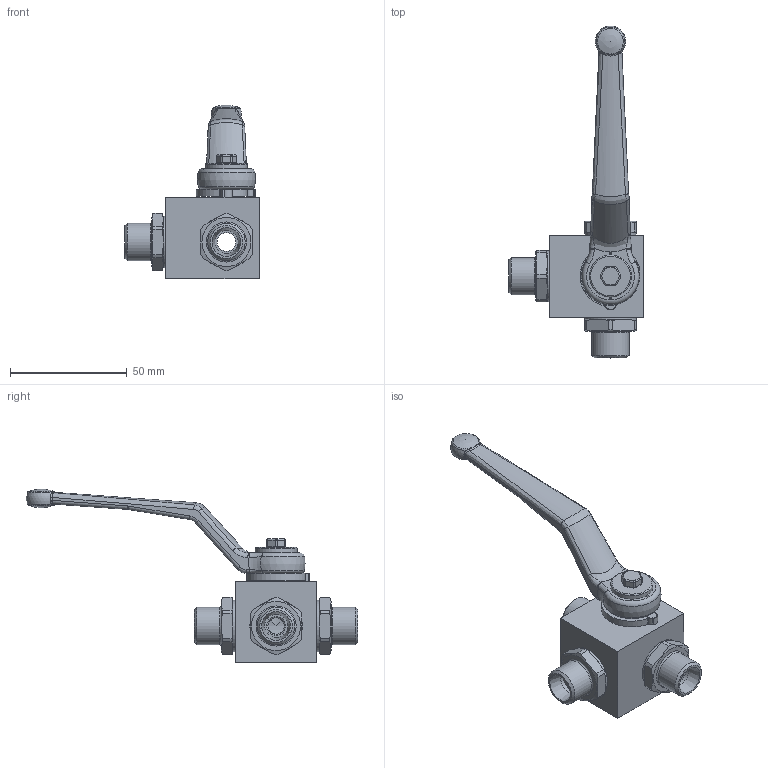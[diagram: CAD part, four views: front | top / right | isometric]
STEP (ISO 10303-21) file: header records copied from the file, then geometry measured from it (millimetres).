
FILE_DESCRIPTION( ( 'Unknown' ), '1' );
FILE_NAME( 'H:/PISTER/3D-MODELLE/BK3-Edelstahl stp/BK3-Edelst DN8 10L.stp', 'Unknown', ( 'Unknown' ), ( 'Unknown' ), 'PSStep 14.0', 'Unknown', ' ' );
FILE_SCHEMA( ( 'AUTOMOTIVE_DESIGN { 1 0 10303 214 1 1 1 1 }' ) );
Length unit declared in the file: millimetre
Products named in the file (11): Assem1; 56-032-337-oa5; 09-09-003; 58-28740-16-oa6; 58-0440-009; 58-0933-235; 04-008-027-oa7; 04-008-027-oa8; 06-008-007-oa11; Griff_SW9; 01-008-020-oa12
Assembly tree (10 placements, depth 2):
  Assem1
    56-032-337-oa5
    09-09-003
    58-28740-16-oa6
    58-0440-009
    58-0933-235
    04-008-027-oa7
    04-008-027-oa8
    06-008-007-oa11
    Griff_SW9
    01-008-020-oa12
Bounding box: 57.5 x 142 x 74.4 mm (x, y, z)
Volume: 58404.8 mm3; surface area: 26474.7 mm2
Topology: 10 solids, 10 shells, 374 faces, 921 edges, 576 vertices
Faces by surface type: cylinder 127, plane 123, cone 47, torus 37, bspline 36, sphere 4
Full cylindrical faces by diameter (mm): 4.134 x1, 4.98 x1, 5 x1, 5.8 x1, 7 x1, 8 x3, 10 x3, 14 x2, 16 x3, 17.1 x1, 18 x1, 18.376 x1, 18.5 x1, 20 x5, 20.3 x3, 22 x3, 22.5 x3
Entity records: 15337 total; most frequent: CARTESIAN_POINT 4049, DIRECTION 1690, ORIENTED_EDGE 1610, EDGE_CURVE 805, AXIS2_PLACEMENT_3D 698, VERTEX_POINT 538, EDGE_LOOP 479, FACE_OUTER_BOUND 421
